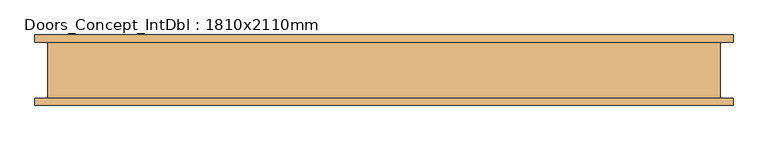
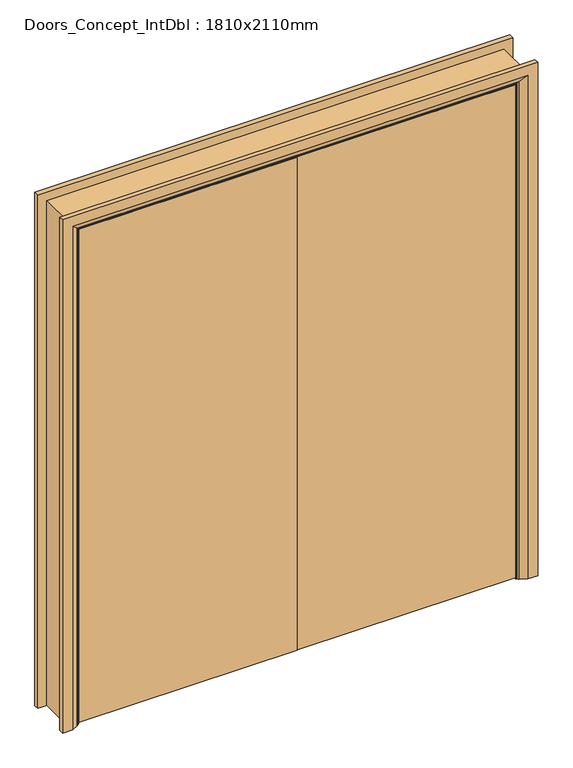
"""IFC4 building model written with IfcOpenShell, lengths in millimetres: door geometry, Doors_Concept_IntDbl : 1810x2110mm."""

from ifc_helpers import new_model, si_unit, frame, origin, place, context, project, spatial, polyline, circle_curve, ellipse_curve, outline, extrude, faceted_brep, source, transform, mapped, element, save
from ifc_brep_helpers import plane_surface, cylinder_surface, advanced_brep


def doors_concept_intdbl_1810x2110mm_1c066db9(model_context):
    return source(origin(), model_context, "Body", "SolidModel", [
        extrude(outline(polyline([(2110.0, -905.0), (0.0, -905.0), (0.0, -865.0), (2070.0, -865.0), (2070.0, 865.0), (0.0, 865.0), (0.0, 905.0), (2110.0, 905.0), (2110.0, -905.0)])), frame((0.0, -75.0, 0.0), z_axis=(0.0, 1.0, 0.0), x_axis=(0.0, 0.0, 1.0)), (0.0, 0.0, 1.0), 150.0),
        advanced_brep(
        [(-940.0, 95.0, 0.0), (-900.0, 95.0, 0.0), (-874.0, 81.0, 0.0), (-870.0, 75.0, 0.0), (-940.0, 75.0, 0.0), (-940.0, 75.0, 2145.0), (-940.0, 95.0, 2145.0), (-870.0, 75.0, 2075.0), (870.0, 75.0, 2075.0), (870.0, 75.0, 0.0), (940.0, 75.0, 0.0), (940.0, 75.0, 2145.0), (-874.0, 81.0, 2079.0), (-900.0, 95.0, 2105.0), (940.0, 95.0, 2145.0), (940.0, 95.0, 0.0), (900.0, 95.0, 0.0), (900.0, 95.0, 2105.0), (874.0, 81.0, 0.0), (874.0, 81.0, 2079.0)],
        [
            (0, 1),
            (1, 2),
            (2, 3, circle_curve(frame((-878.0, 74.0, 0.0), z_axis=(0.0, 0.0, -1.0), x_axis=(-1.0, 0.0, 0.0)), 8.0622577)),
            (3, 4),
            (4, 0),
            (4, 5),
            (5, 6),
            (6, 0),
            (3, 7),
            (7, 8),
            (8, 9),
            (9, 10),
            (10, 11),
            (11, 5),
            (2, 12),
            (12, 7, ellipse_curve(frame((-878.0, 74.0, 2083.0), z_axis=(-0.7071067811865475, 0.0, -0.7071067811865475), x_axis=(0.7071067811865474, 0.0, -0.7071067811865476)), 11.4017543, 8.0622577)),
            (1, 13),
            (13, 12),
            (6, 14),
            (14, 15),
            (15, 16),
            (16, 17),
            (17, 13),
            (10, 15),
            (14, 11),
            (9, 18, circle_curve(frame((878.0, 74.0, 0.0), z_axis=(0.0, 0.0, -1.0), x_axis=(1.0, 0.0, 0.0)), 8.0622577)),
            (18, 16),
            (19, 18),
            (8, 19, ellipse_curve(frame((878.0, 74.0, 2083.0), z_axis=(0.7071067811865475, 0.0, -0.7071067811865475), x_axis=(0.7071067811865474, 0.0, 0.7071067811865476)), 11.4017543, 8.0622577)),
            (19, 17),
            (12, 19),
        ],
        [
            plane_surface(frame((-870.0, 75.0, 0.0), z_axis=(0.0, 0.0, -1.0), x_axis=(0.0, 1.0, 0.0))),
            plane_surface(frame((-940.0, 95.0, 0.0), z_axis=(-1.0, 0.0, 0.0), x_axis=(0.0, 0.0, 1.0))),
            plane_surface(frame((-940.0, 75.0, 0.0), z_axis=(0.0, -1.0, 0.0), x_axis=(0.0, 0.0, 1.0))),
            cylinder_surface(frame((-878.0, 74.0, 0.0), z_axis=(0.0, 0.0, -1.0), x_axis=(-1.0, 0.0, 0.0)), 8.0622577),
            plane_surface(frame((-874.0, 81.0, 0.0), z_axis=(0.4740998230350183, 0.8804710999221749, 0.0), x_axis=(0.0, 0.0, 1.0))),
            plane_surface(frame((-900.0, 95.0, 0.0), z_axis=(0.0, 1.0, 0.0), x_axis=(0.0, 0.0, 1.0))),
            plane_surface(frame((940.0, 95.0, 2145.0), z_axis=(1.0, 0.0, 0.0), x_axis=(0.0, 0.0, -1.0))),
            plane_surface(frame((870.0, 75.0, 0.0), z_axis=(0.0, 0.0, -1.0), x_axis=(0.0, 1.0, 0.0))),
            cylinder_surface(frame((878.0, 74.0, 2075.0), z_axis=(0.0, 0.0, 1.0), x_axis=(1.0, 0.0, 0.0)), 8.0622577),
            plane_surface(frame((874.0, 81.0, 2079.0), z_axis=(-0.4740998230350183, 0.8804710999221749, 0.0), x_axis=(0.0, 0.0, -1.0))),
            plane_surface(frame((-940.0, 95.0, 2145.0), z_axis=(0.0, 0.0, 1.0), x_axis=(1.0, 0.0, 0.0))),
            cylinder_surface(frame((-870.0, 74.0, 2083.0), z_axis=(-1.0, 0.0, 0.0), x_axis=(0.0, 0.0, 1.0)), 8.0622577),
            plane_surface(frame((-874.0, 81.0, 2079.0), z_axis=(0.0, 0.8804710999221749, -0.4740998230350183), x_axis=(1.0, 0.0, 0.0))),
        ],
        [
            (0, [[1, 2, 3, 4, 5]]),
            (1, [[6, 7, 8, -5]]),
            (2, [[9, 10, 11, 12, 13, 14, -6, -4]]),
            (3, [[15, 16, -9, -3]]),
            (4, [[17, 18, -15, -2]]),
            (5, [[-8, 19, 20, 21, 22, 23, -17, -1]]),
            (6, [[-13, 24, -20, 25]]),
            (7, [[-24, -12, 26, 27, -21]]),
            (8, [[28, -26, -11, 29]]),
            (9, [[-22, -27, -28, 30]]),
            (10, [[-14, -25, -19, -7]]),
            (11, [[31, -29, -10, -16]]),
            (12, [[-23, -30, -31, -18]]),
        ],
    ),
        advanced_brep(
        [(940.0, -95.0, 0.0), (900.0, -95.0, 0.0), (874.0, -81.0, 0.0), (870.0, -75.0, 0.0), (940.0, -75.0, 0.0), (940.0, -75.0, 2145.0), (940.0, -95.0, 2145.0), (870.0, -75.0, 2075.0), (-870.0, -75.0, 2075.0), (-870.0, -75.0, 0.0), (-940.0, -75.0, 0.0), (-940.0, -75.0, 2145.0), (874.0, -81.0, 2079.0), (900.0, -95.0, 2105.0), (-940.0, -95.0, 2145.0), (-940.0, -95.0, 0.0), (-900.0, -95.0, 0.0), (-900.0, -95.0, 2105.0), (-874.0, -81.0, 0.0), (-874.0, -81.0, 2079.0)],
        [
            (0, 1),
            (1, 2),
            (2, 3, circle_curve(frame((878.0, -74.0, 0.0), z_axis=(0.0, 0.0, -1.0), x_axis=(1.0, 0.0, 0.0)), 8.0622577)),
            (3, 4),
            (4, 0),
            (4, 5),
            (5, 6),
            (6, 0),
            (3, 7),
            (7, 8),
            (8, 9),
            (9, 10),
            (10, 11),
            (11, 5),
            (2, 12),
            (12, 7, ellipse_curve(frame((878.0, -74.0, 2083.0), z_axis=(0.7071067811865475, 0.0, -0.7071067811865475), x_axis=(-0.7071067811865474, 0.0, -0.7071067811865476)), 11.4017543, 8.0622577)),
            (1, 13),
            (13, 12),
            (6, 14),
            (14, 15),
            (15, 16),
            (16, 17),
            (17, 13),
            (10, 15),
            (14, 11),
            (9, 18, circle_curve(frame((-878.0, -74.0, 0.0), z_axis=(0.0, 0.0, -1.0), x_axis=(-1.0, 0.0, 0.0)), 8.0622577)),
            (18, 16),
            (19, 18),
            (8, 19, ellipse_curve(frame((-878.0, -74.0, 2083.0), z_axis=(-0.7071067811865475, 0.0, -0.7071067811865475), x_axis=(-0.7071067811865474, 0.0, 0.7071067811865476)), 11.4017543, 8.0622577)),
            (19, 17),
            (12, 19),
        ],
        [
            plane_surface(frame((870.0, -75.0, 0.0), z_axis=(0.0, 0.0, -1.0), x_axis=(0.0, 1.0, 0.0))),
            plane_surface(frame((940.0, -95.0, 0.0), z_axis=(1.0, 0.0, 0.0), x_axis=(0.0, 0.0, 1.0))),
            plane_surface(frame((940.0, -75.0, 0.0), z_axis=(0.0, 1.0, 0.0), x_axis=(0.0, 0.0, 1.0))),
            cylinder_surface(frame((878.0, -74.0, 0.0), z_axis=(0.0, 0.0, -1.0), x_axis=(1.0, 0.0, 0.0)), 8.0622577),
            plane_surface(frame((874.0, -81.0, 0.0), z_axis=(-0.4740998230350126, -0.8804710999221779, 0.0), x_axis=(0.0, 0.0, 1.0))),
            plane_surface(frame((900.0, -95.0, 0.0), z_axis=(0.0, -1.0, 0.0), x_axis=(0.0, 0.0, 1.0))),
            plane_surface(frame((-940.0, -95.0, 2145.0), z_axis=(-1.0, 0.0, 0.0), x_axis=(0.0, 0.0, -1.0))),
            plane_surface(frame((-870.0, -75.0, 0.0), z_axis=(0.0, 0.0, -1.0), x_axis=(0.0, 1.0, 0.0))),
            cylinder_surface(frame((-878.0, -74.0, 2075.0), z_axis=(0.0, 0.0, 1.0), x_axis=(-1.0, 0.0, 0.0)), 8.0622577),
            plane_surface(frame((-874.0, -81.0, 2079.0), z_axis=(0.4740998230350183, -0.8804710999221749, 0.0), x_axis=(0.0, 0.0, -1.0))),
            plane_surface(frame((940.0, -95.0, 2145.0), z_axis=(0.0, 0.0, 1.0), x_axis=(-1.0, 0.0, 0.0))),
            cylinder_surface(frame((870.0, -74.0, 2083.0), z_axis=(1.0, 0.0, 0.0), x_axis=(0.0, 0.0, 1.0)), 8.0622577),
            plane_surface(frame((874.0, -81.0, 2079.0), z_axis=(0.0, -0.8804710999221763, -0.4740998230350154), x_axis=(-1.0, 0.0, 0.0))),
        ],
        [
            (0, [[1, 2, 3, 4, 5]]),
            (1, [[6, 7, 8, -5]]),
            (2, [[9, 10, 11, 12, 13, 14, -6, -4]]),
            (3, [[15, 16, -9, -3]]),
            (4, [[17, 18, -15, -2]]),
            (5, [[-8, 19, 20, 21, 22, 23, -17, -1]]),
            (6, [[-13, 24, -20, 25]]),
            (7, [[-24, -12, 26, 27, -21]]),
            (8, [[28, -26, -11, 29]]),
            (9, [[-22, -27, -28, 30]]),
            (10, [[-14, -25, -19, -7]]),
            (11, [[31, -29, -10, -16]]),
            (12, [[-23, -30, -31, -18]]),
        ],
    ),
        faceted_brep([(-846.0, -40.0, 0.0), (-865.0, -40.0, 0.0), (-865.0, -8.0, 0.0), (-846.0, -8.0, 0.0), (-846.0, -8.0, 2051.0), (-846.0, -40.0, 2051.0), (-865.0, -8.0, 2070.0), (-865.0, -40.0, 2070.0), (846.0, -40.0, 0.0), (846.0, -8.0, 0.0), (865.0, -8.0, 0.0), (865.0, -40.0, 0.0), (846.0, -40.0, 2051.0), (865.0, -40.0, 2070.0), (865.0, -8.0, 2070.0), (846.0, -8.0, 2051.0)], [[[0, 1, 2, 3]], [[3, 4, 5, 0]], [[2, 6, 4, 3]], [[1, 7, 6, 2]], [[0, 5, 7, 1]], [[8, 9, 10, 11]], [[12, 8, 11, 13]], [[13, 11, 10, 14]], [[14, 10, 9, 15]], [[15, 9, 8, 12]], [[4, 15, 12, 5]], [[6, 14, 15, 4]], [[7, 13, 14, 6]], [[5, 12, 13, 7]]]),
        extrude(outline(polyline([(-1.5, -43.0), (-1.5, -75.0), (-862.0, -75.0), (-862.0, -43.0), (-1.5, -43.0)])), frame((0.0, 0.0, 5.753223), z_axis=(0.0, 0.0, 1.0), x_axis=(1.0, 0.0, 0.0)), (0.0, 0.0, 1.0), 2061.246777),
        extrude(outline(polyline([(862.0, -43.0), (862.0, -75.0), (1.5, -75.0), (1.5, -43.0), (862.0, -43.0)])), frame((0.0, 0.0, 5.753223), z_axis=(0.0, 0.0, 1.0), x_axis=(1.0, 0.0, 0.0)), (0.0, 0.0, 1.0), 2061.246777),
    ])


if __name__ == "__main__":
    model = new_model("IFC4")
    model_context = context("Model", 3, world=origin())
    ifc_project = project(units=[si_unit("LENGTHUNIT", "METRE", prefix="MILLI")], contexts=[model_context])
    site = spatial("IfcSite", under=ifc_project)
    building = spatial("IfcBuilding", under=site)
    placement = place(None, origin())
    doors_concept_intdbl_1810x2110mm_shape = doors_concept_intdbl_1810x2110mm_1c066db9(model_context)
    element("IfcDoor", 1, ObjectType="Doors_Concept_IntDbl : 1810x2110mm", at=placement, inside=building, context=model_context, shape_type="MappedRepresentation", body=[
        mapped(doors_concept_intdbl_1810x2110mm_shape, transform((0.0, 0.0, 0.0), x_axis=(1.0, 0.0, 0.0), y_axis=(0.0, 1.0, 0.0), z_axis=(0.0, 0.0, 1.0))),
    ])
    save(model, "model.ifc")
